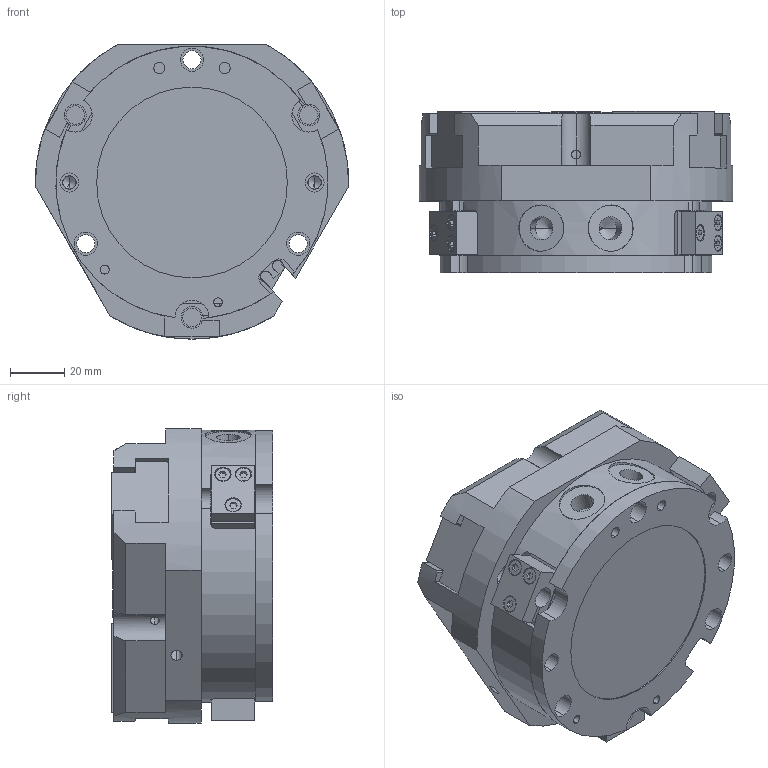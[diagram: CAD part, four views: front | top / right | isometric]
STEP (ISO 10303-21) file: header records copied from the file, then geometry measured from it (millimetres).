
FILE_DESCRIPTION (( 'STEP AP214' ), '1' );
FILE_NAME ('TZ8-100-1.STEP', '2026-03-26T15:54:23', ( '' ), ( '' ), 'SwSTEP 2.0', 'SolidWorks 2024', '' );
FILE_SCHEMA (( 'AUTOMOTIVE_DESIGN' ));
Length unit declared in the file: millimetre
Products named in the file (6): TZ100-10; TZ100-3; TZ8-100-1; TZ100_2; TZ100-4; 150-00100-0801-B1
Assembly tree (9 placements, depth 2):
  TZ8-100-1
    TZ100_2
    TZ100-3  x3
    TZ100-10
    TZ100-4  x3
    150-00100-0801-B1
Bounding box: 114.96 x 59.3 x 108 mm (x, y, z)
Volume: 458348.2 mm3; surface area: 97306.3 mm2
Topology: 9 solids, 9 shells, 561 faces, 1427 edges, 899 vertices
Faces by surface type: plane 275, cylinder 209, cone 77
Entity records: 12656 total; most frequent: CARTESIAN_POINT 2885, DIRECTION 2061, ORIENTED_EDGE 1954, EDGE_CURVE 977, AXIS2_PLACEMENT_3D 757, VERTEX_POINT 635, VECTOR 547, LINE 547
